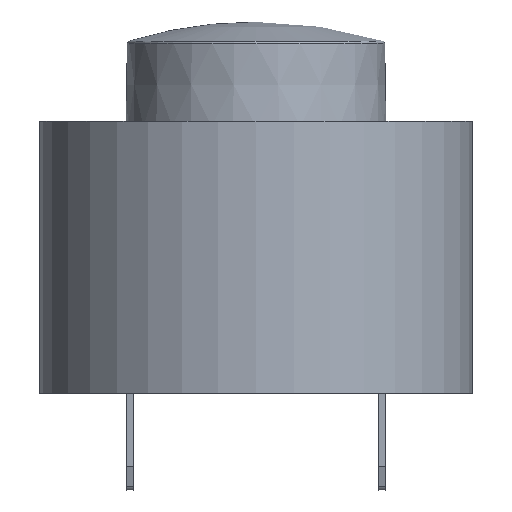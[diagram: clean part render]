
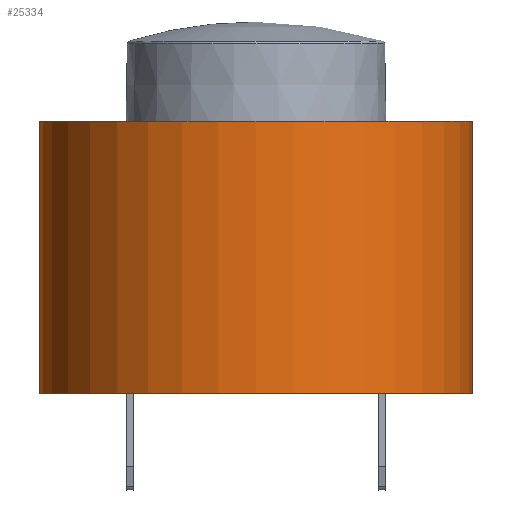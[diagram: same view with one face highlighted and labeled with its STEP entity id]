
A CAD part, front view. The second image highlights one B-rep face of the part: STEP entity #25334.
In plain terms, the highlighted cylindrical face has radius 8.75 mm (diameter 17.5 mm), a full revolution.
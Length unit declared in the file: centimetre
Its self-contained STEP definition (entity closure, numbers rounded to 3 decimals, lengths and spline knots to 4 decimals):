
#1169=FACE_BOUND($,#2720,.T.);
#1391=FACE_OUTER_BOUND($,#2719,.T.);
#2719=EDGE_LOOP($,(#16377));
#2720=EDGE_LOOP($,(#16378));
#4664=CIRCLE($,#26704,0.875);
#4666=CIRCLE($,#26709,0.875);
#10188=VERTEX_POINT($,#35234);
#10190=VERTEX_POINT($,#35241);
#12640=EDGE_CURVE($,#10188,#10188,#4664,.T.);
#12642=EDGE_CURVE($,#10190,#10190,#4666,.T.);
#16377=ORIENTED_EDGE($,*,*,#12640,.T.);
#16378=ORIENTED_EDGE($,*,*,#12642,.F.);
#23764=CYLINDRICAL_SURFACE($,#26708,0.875);
#25334=ADVANCED_FACE($,(#1391,#1169),#23764,.T.);
#26704=AXIS2_PLACEMENT_3D($,#35235,#28762,#28763);
#26708=AXIS2_PLACEMENT_3D($,#35240,#28770,#28771);
#26709=AXIS2_PLACEMENT_3D($,#35242,#28772,#28773);
#28762=DIRECTION('center_axis',(0.,0.,
-1.));
#28763=DIRECTION('ref_axis',(-1.,0.,0.));
#28770=DIRECTION('center_axis',(0.,0.,
1.));
#28771=DIRECTION('ref_axis',(-1.,0.,0.));
#28772=DIRECTION('center_axis',(0.,0.,
-1.));
#28773=DIRECTION('ref_axis',(-1.,0.,0.));
#35234=CARTESIAN_POINT('',(0.875,0.,1.1));
#35235=CARTESIAN_POINT('Origin',(0.,0.,
1.1));
#35240=CARTESIAN_POINT('Origin',(0.,0.,
0.));
#35241=CARTESIAN_POINT('',(0.875,0.,0.));
#35242=CARTESIAN_POINT('Origin',(0.,0.,
0.));
